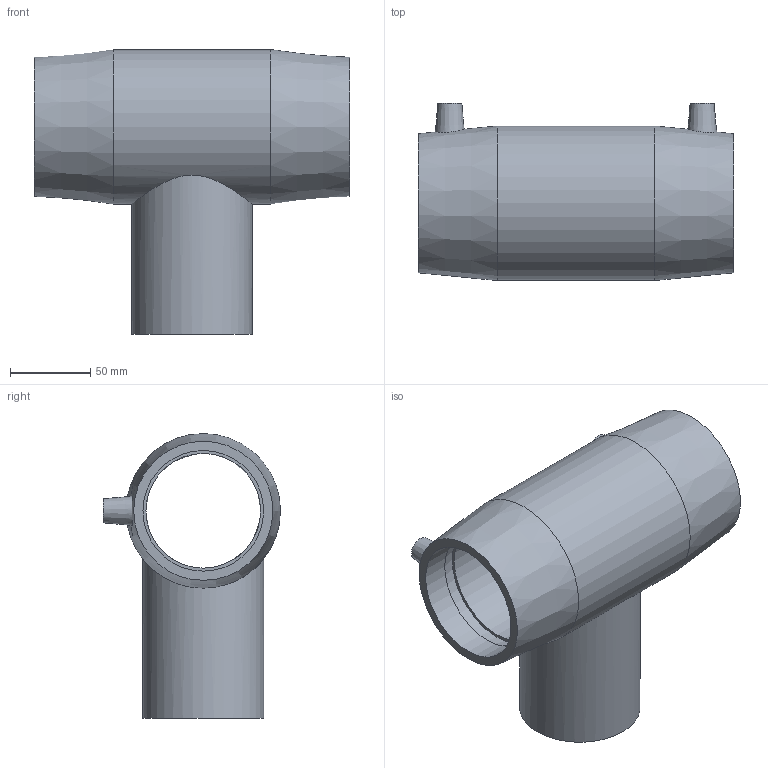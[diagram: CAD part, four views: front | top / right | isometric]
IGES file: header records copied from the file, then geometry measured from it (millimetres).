
Global section: file name: 490404075.ipt; native system: Autodesk Inventor 2015; preprocessor: unknown; author: KIM; date: 20171106.093613; units: millimetre
Bounding box: 196 x 110 x 177 mm (x, y, z)
Volume: 619204.2 mm3; surface area: 143676.7 mm2
Topology: 1 solids, 1 shells, 31 faces, 72 edges, 52 vertices
Faces by surface type: plane 13, revolution 10, cylinder 4, cone 4
Full cylindrical faces by diameter (mm): 4.8 x2, 75 x1, 96 x1
